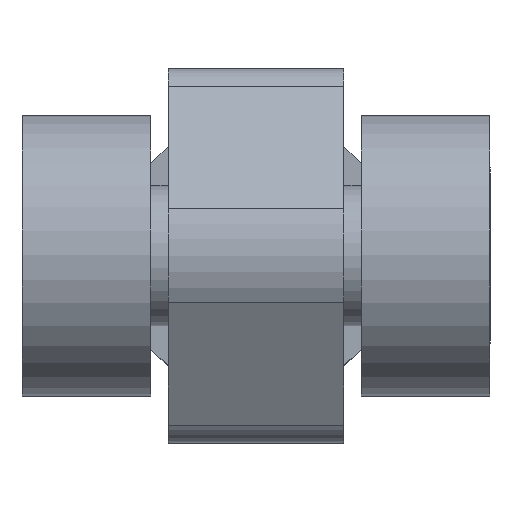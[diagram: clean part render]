
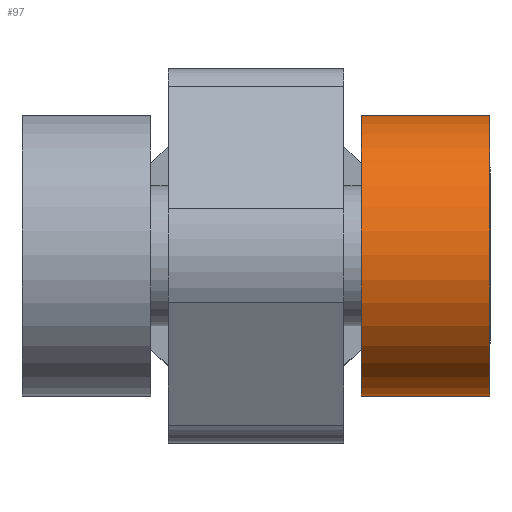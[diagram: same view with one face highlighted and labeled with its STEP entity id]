
A CAD part, top view. The second image highlights one B-rep face of the part: STEP entity #97.
In plain terms, the highlighted cylindrical face has radius 6 mm (diameter 12 mm), a full revolution.
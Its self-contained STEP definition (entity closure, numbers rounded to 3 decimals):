
#97=ADVANCED_FACE('',(#220,#221),#222,.T.);
#220=FACE_OUTER_BOUND('',#373,.T.);
#221=FACE_OUTER_BOUND('',#374,.T.);
#222=CYLINDRICAL_SURFACE('',#375,6.0);
#373=EDGE_LOOP('',(#593));
#374=EDGE_LOOP('',(#594));
#375=AXIS2_PLACEMENT_3D('',#595,#596,#597);
#593=ORIENTED_EDGE('',*,*,#900,.T.);
#594=ORIENTED_EDGE('',*,*,#903,.F.);
#595=CARTESIAN_POINT('',(10.,0.,11.));
#596=DIRECTION('',(-1.0,0.0,0.0));
#597=DIRECTION('',(0.0,0.0,-1.0));
#900=EDGE_CURVE('',#1077,#1077,#1078,.T.);
#903=EDGE_CURVE('',#1082,#1082,#1083,.T.);
#1077=VERTEX_POINT('',#1333);
#1078=CIRCLE('',#1334,6.0);
#1082=VERTEX_POINT('',#1338);
#1083=CIRCLE('',#1339,6.0);
#1333=CARTESIAN_POINT('',(10.,0.,17.0));
#1334=AXIS2_PLACEMENT_3D('',#1561,#1562,#1563);
#1338=CARTESIAN_POINT('',(4.5,0.,17.0));
#1339=AXIS2_PLACEMENT_3D('',#1567,#1568,#1569);
#1561=CARTESIAN_POINT('',(10.,0.,11.));
#1562=DIRECTION('',(-1.0,0.0,0.0));
#1563=DIRECTION('',(0.0,0.0,1.0));
#1567=CARTESIAN_POINT('',(4.5,0.,11.));
#1568=DIRECTION('',(-1.0,0.0,0.0));
#1569=DIRECTION('',(0.0,0.0,1.0));
